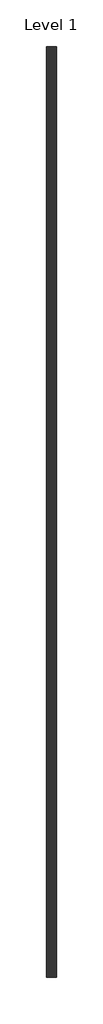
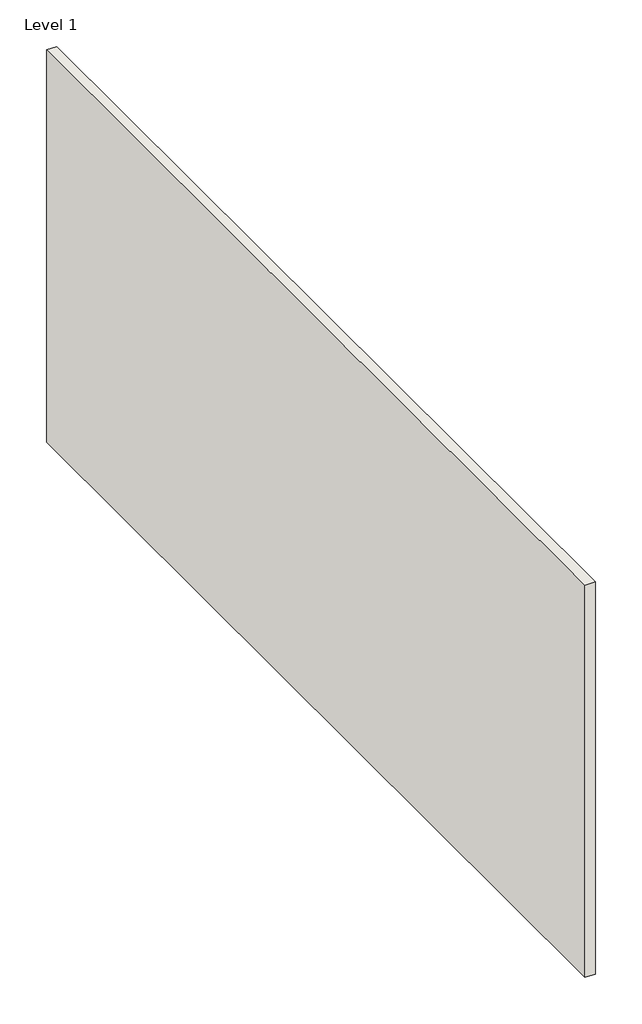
# One storey: 1 wall.
"""IFC4 building model written with IfcOpenShell, lengths in millimetres."""

import ifcopenshell
import ifcopenshell.guid

model = None  # the IFC model being written
_history = None  # IfcOwnerHistory: only IFC2X3 demands one
_inside = {}  # id of a spatial element -> (the spatial element, [elements in it])
_under = {}  # id of a project, library or spatial element -> (it, [spatial elements below it])
_declared = {}  # id of a project -> (the project, [libraries it declares])
_typed = {}  # id of a type object -> (the type object, [elements of that type])
_made_of = {}  # id of a material, layer set ... -> (it, [elements and type objects made of it])


def new_model(schema):
    """Start an empty IFC model of exactly this schema.

    Asked for "IFC4X3", IfcOpenShell would pick the latest addendum, in which some entities
    have other attributes; the version numbers below select the first issue.
    IFC2X3 requires an IfcOwnerHistory on every rooted entity: one is made here for all.
    """
    global model, _history
    if schema == "IFC4X3":
        model = ifcopenshell.file(schema_version=(4, 3, 0, 0))
    else:
        model = ifcopenshell.file(schema=schema)
    _inside.clear()
    _under.clear()
    _declared.clear()
    _typed.clear()
    _made_of.clear()
    _history = None
    if model.schema == "IFC2X3":
        org = make("IfcOrganization", Name="unknown")
        user = make(
            "IfcPersonAndOrganization",
            ThePerson=make("IfcPerson", FamilyName="unknown"),
            TheOrganization=org,
        )
        app = make(
            "IfcApplication",
            ApplicationDeveloper=org,
            Version="unknown",
            ApplicationFullName="unknown",
            ApplicationIdentifier="unknown",
        )
        _history = make(
            "IfcOwnerHistory",
            OwningUser=user,
            OwningApplication=app,
            ChangeAction="ADDED",
            CreationDate=0,
        )
    return model


def make(cls, **values):
    """One entity of the class cls with the attributes given. An attribute that is None is left unset."""
    return model.create_entity(
        cls, **{name: value for name, value in values.items() if value is not None}
    )


def rooted(cls, **values):
    """An entity with a GlobalId (a new one), such as an element, a storey or a relation."""
    return make(cls, GlobalId=ifcopenshell.guid.new(), OwnerHistory=_history, **values)


def si_unit(unit_type, name, prefix=None):
    """IfcSIUnit, for example si_unit("LENGTHUNIT", "METRE", prefix="MILLI")."""
    return make("IfcSIUnit", UnitType=unit_type, Prefix=prefix, Name=name)


def assignment(units):
    """IfcUnitAssignment: the units of a project."""
    return None if units is None else make("IfcUnitAssignment", Units=units)


def point(xyz):
    """IfcCartesianPoint."""
    return None if xyz is None else make("IfcCartesianPoint", Coordinates=xyz)


def direction(xyz):
    """IfcDirection."""
    return None if xyz is None else make("IfcDirection", DirectionRatios=xyz)


def frame(location, z_axis=None, x_axis=None):
    """IfcAxis2Placement3D, a coordinate frame: its origin and axes. An axis left out is left unset."""
    return make(
        "IfcAxis2Placement3D",
        Location=point(location),
        Axis=direction(z_axis),
        RefDirection=direction(x_axis),
    )


def origin():
    """The frame at (0, 0, 0) with its axes left unset."""
    return frame((0.0, 0.0, 0.0))


def origin_with_axes():
    """The frame at (0, 0, 0) with the z axis (0, 0, 1) and the x axis (1, 0, 0) written out."""
    return frame((0.0, 0.0, 0.0), z_axis=(0.0, 0.0, 1.0), x_axis=(1.0, 0.0, 0.0))


def place(relative_to, where):
    """IfcLocalPlacement: puts the frame where relative to a parent placement (None: the world)."""
    return make(
        "IfcLocalPlacement", PlacementRelTo=relative_to, RelativePlacement=where
    )


def context(
    kind, dimensions, precision=None, world=None, true_north=None, identifier=None
):
    """IfcGeometricRepresentationContext, for example the 3D "Model" context."""
    return make(
        "IfcGeometricRepresentationContext",
        ContextIdentifier=identifier,
        ContextType=kind,
        CoordinateSpaceDimension=dimensions,
        Precision=precision,
        WorldCoordinateSystem=world,
        TrueNorth=true_north,
    )


def project(units=None, contexts=None):
    """IfcProject with its units and contexts."""
    return rooted(
        "IfcProject",
        Name="project",
        RepresentationContexts=contexts,
        UnitsInContext=assignment(units),
    )


def spatial(cls, under=None, at=None, **own):
    """A site, building, storey or space (cls), placed at a placement, below another one or the project."""
    s = rooted(cls, ObjectPlacement=at, **own)
    if under is not None:
        _under.setdefault(under.id(), (under, []))[1].append(s)
    return s


def polyline(points):
    """IfcPolyline through the points."""
    return make("IfcPolyline", Points=[point(p) for p in points])


def outline(outer, holes=None, kind="AREA"):
    """IfcArbitraryClosedProfileDef: a profile drawn as a closed curve; with holes, ...WithVoids."""
    if holes is None:
        return make("IfcArbitraryClosedProfileDef", ProfileType=kind, OuterCurve=outer)
    return make(
        "IfcArbitraryProfileDefWithVoids",
        ProfileType=kind,
        OuterCurve=outer,
        InnerCurves=holes,
    )


def extrude(swept, where, along, depth):
    """IfcExtrudedAreaSolid: the profile swept, set in the frame where, extruded along a direction by depth."""
    return make(
        "IfcExtrudedAreaSolid",
        SweptArea=swept,
        Position=where,
        ExtrudedDirection=direction(along),
        Depth=depth,
    )


def shape(context_of_items, identifier, shape_type, items):
    """IfcShapeRepresentation: the items that make up one representation, for example the "Body"."""
    return make(
        "IfcShapeRepresentation",
        ContextOfItems=context_of_items,
        RepresentationIdentifier=identifier,
        RepresentationType=shape_type,
        Items=items,
    )


def made_of(thing, what):
    """Note that an element or type object is made of a material, layer set ...; save() writes the relation."""
    if what is not None:
        _made_of.setdefault(what.id(), (what, []))[1].append(thing)
    return thing


def element(
    cls,
    number,
    at=None,
    inside=None,
    cuts=None,
    type_object=None,
    material=None,
    context=None,
    identifier="Body",
    shape_type=None,
    held_by="IfcProductDefinitionShape",
    body=None,
    shapes=None,
    **own,
):
    """One element of the class cls, such as IfcWall. Its Tag is "e" and its number.

    at: its placement. inside: the storey or other place that contains it. cuts: it is an
    opening in that element (IfcRelVoidsElement). A single representation is given by context,
    identifier, shape_type and body (its items); several are given by shapes. held_by: the class
    of the entity that holds the representations. save() writes the other relations.
    """
    e = rooted(cls, Tag="e%d" % number, ObjectPlacement=at, **own)
    if body is not None:
        shapes = [shape(context, identifier, shape_type, body)]
    if shapes is not None:
        e.Representation = make(held_by, Representations=shapes)
    if inside is not None:
        _inside.setdefault(inside.id(), (inside, []))[1].append(e)
    if cuts is not None:
        rooted(
            "IfcRelVoidsElement", RelatingBuildingElement=cuts, RelatedOpeningElement=e
        )
    if type_object is not None:
        _typed.setdefault(type_object.id(), (type_object, []))[1].append(e)
    return made_of(e, material)


def aggregate(whole, parts):
    """IfcRelAggregates: a whole, such as a stair, and the parts it consists of."""
    return rooted("IfcRelAggregates", RelatingObject=whole, RelatedObjects=parts)


def save(model, path):
    """Write the relations noted so far, then the file.

    IfcRelAggregates (storeys below a building ...), IfcRelContainedInSpatialStructure (elements
    in a storey), IfcRelDefinesByType, IfcRelAssociatesMaterial and IfcRelDeclares: one each for
    every whole, place, type object, material and project.
    """
    for whole, parts in _under.values():
        aggregate(whole, parts)
    for where, things in _inside.values():
        rooted(
            "IfcRelContainedInSpatialStructure",
            RelatedElements=things,
            RelatingStructure=where,
        )
    for kind, things in _typed.values():
        rooted("IfcRelDefinesByType", RelatedObjects=things, RelatingType=kind)
    for what, things in _made_of.values():
        rooted("IfcRelAssociatesMaterial", RelatedObjects=things, RelatingMaterial=what)
    for by, libraries in _declared.values():
        rooted("IfcRelDeclares", RelatingContext=by, RelatedDefinitions=libraries)
    model.write(path)


model = new_model("IFC4")

# Units and contexts
model_context = context("Model", 3, world=origin())
ifc_project = project(units=[si_unit("LENGTHUNIT", "METRE", prefix="MILLI")], contexts=[model_context])

# Site, building, storey
site = spatial("IfcSite", under=ifc_project)
building = spatial("IfcBuilding", under=site)
storey = spatial("IfcBuildingStorey", under=building, Name="Level 1", Elevation=0.0)

# Wall
placement = place(None, origin())
element("IfcWall", 1, ObjectType="Generic - 200mm", at=placement, inside=storey, context=model_context, shape_type="SweptSolid", body=[
    extrude(outline(polyline([(-9342.2973444, -6566.6241249), (-9342.2973444, 11433.3758751), (-9142.2973444, 11433.3758751), (-9142.2973444, -6566.6241249), (-9342.2973444, -6566.6241249)])), origin_with_axes(), (0.0, 0.0, 1.0), 8000.0),
])

save(model, "model.ifc")
